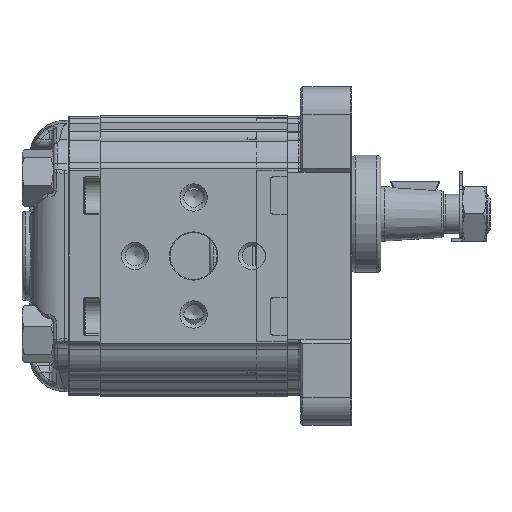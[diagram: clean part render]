
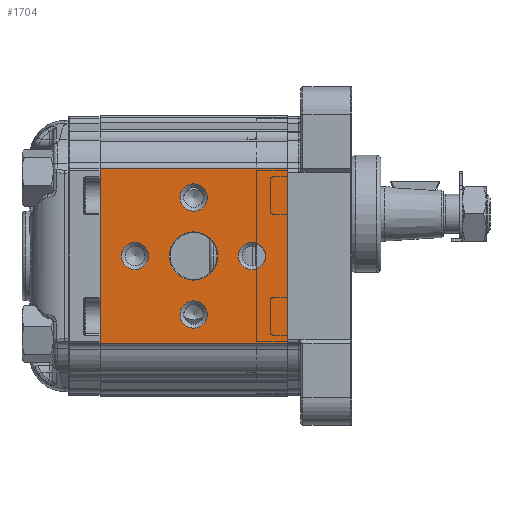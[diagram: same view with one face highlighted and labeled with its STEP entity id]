
A CAD part, left-side view. The second image highlights one B-rep face of the part: STEP entity #1704.
In plain terms, the highlighted planar face has unit normal (-1, 0, 0).
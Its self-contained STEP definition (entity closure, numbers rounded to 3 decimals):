
#1704 = ADVANCED_FACE( '', ( #4775, #4776, #4777, #4778, #4779, #4780 ), #4781, .T. );
#4775 = FACE_BOUND( '', #9670, .T. );
#4776 = FACE_BOUND( '', #9671, .T. );
#4777 = FACE_BOUND( '', #9672, .T. );
#4778 = FACE_BOUND( '', #9673, .T. );
#4779 = FACE_BOUND( '', #9674, .T. );
#4780 = FACE_OUTER_BOUND( '', #9675, .T. );
#4781 = PLANE( '', #9676 );
#9670 = EDGE_LOOP( '', ( #17760 ) );
#9671 = EDGE_LOOP( '', ( #17761 ) );
#9672 = EDGE_LOOP( '', ( #17762 ) );
#9673 = EDGE_LOOP( '', ( #17763 ) );
#9674 = EDGE_LOOP( '', ( #17764 ) );
#9675 = EDGE_LOOP( '', ( #17765, #17766, #17767, #17768 ) );
#9676 = AXIS2_PLACEMENT_3D( '', #17769, #17770, #17771 );
#17760 = ORIENTED_EDGE( '', *, *, #30064, .T. );
#17761 = ORIENTED_EDGE( '', *, *, #30065, .T. );
#17762 = ORIENTED_EDGE( '', *, *, #30066, .T. );
#17763 = ORIENTED_EDGE( '', *, *, #30067, .T. );
#17764 = ORIENTED_EDGE( '', *, *, #30068, .T. );
#17765 = ORIENTED_EDGE( '', *, *, #30069, .T. );
#17766 = ORIENTED_EDGE( '', *, *, #30070, .T. );
#17767 = ORIENTED_EDGE( '', *, *, #30071, .T. );
#17768 = ORIENTED_EDGE( '', *, *, #30072, .F. );
#17769 = CARTESIAN_POINT( '', ( -33., 127.15, 48.138 ) );
#17770 = DIRECTION( '', ( -1., 0., 0. ) );
#17771 = DIRECTION( '', ( 0., 0., 1. ) );
#30064 = EDGE_CURVE( '', #35456, #35456, #35457, .F. );
#30065 = EDGE_CURVE( '', #35458, #35458, #35459, .F. );
#30066 = EDGE_CURVE( '', #35460, #35460, #35461, .F. );
#30067 = EDGE_CURVE( '', #35462, #35462, #35463, .F. );
#30068 = EDGE_CURVE( '', #35464, #35464, #35465, .F. );
#30069 = EDGE_CURVE( '', #35466, #35467, #35468, .T. );
#30070 = EDGE_CURVE( '', #35467, #35469, #35470, .T. );
#30071 = EDGE_CURVE( '', #35469, #35471, #35472, .F. );
#30072 = EDGE_CURVE( '', #35466, #35471, #35473, .T. );
#35456 = VERTEX_POINT( '', #43696 );
#35457 = CIRCLE( '', #43697, 3.5 );
#35458 = VERTEX_POINT( '', #43698 );
#35459 = CIRCLE( '', #43699, 3.5 );
#35460 = VERTEX_POINT( '', #43700 );
#35461 = CIRCLE( '', #43701, 3.5 );
#35462 = VERTEX_POINT( '', #43702 );
#35463 = CIRCLE( '', #43703, 3.5 );
#35464 = VERTEX_POINT( '', #43704 );
#35465 = CIRCLE( '', #43705, 6.2 );
#35466 = VERTEX_POINT( '', #43706 );
#35467 = VERTEX_POINT( '', #43707 );
#35468 = LINE( '', #43708, #43709 );
#35469 = VERTEX_POINT( '', #43710 );
#35470 = LINE( '', #43711, #43712 );
#35471 = VERTEX_POINT( '', #43713 );
#35472 = LINE( '', #43714, #43715 );
#35473 = LINE( '', #43716, #43717 );
#43696 = CARTESIAN_POINT( '', ( -33., 24., -11.5 ) );
#43697 = AXIS2_PLACEMENT_3D( '', #57591, #57592, #57593 );
#43698 = CARTESIAN_POINT( '', ( -33., 9., 3.5 ) );
#43699 = AXIS2_PLACEMENT_3D( '', #57594, #57595, #57596 );
#43700 = CARTESIAN_POINT( '', ( -33., 24., 18.5 ) );
#43701 = AXIS2_PLACEMENT_3D( '', #57597, #57598, #57599 );
#43702 = CARTESIAN_POINT( '', ( -33., 39., 3.5 ) );
#43703 = AXIS2_PLACEMENT_3D( '', #57600, #57601, #57602 );
#43704 = CARTESIAN_POINT( '', ( -33., 24., 6.2 ) );
#43705 = AXIS2_PLACEMENT_3D( '', #57603, #57604, #57605 );
#43706 = CARTESIAN_POINT( '', ( -33., 48., -22.5 ) );
#43707 = CARTESIAN_POINT( '', ( -33., 0., -22.5 ) );
#43708 = CARTESIAN_POINT( '', ( -33., 48., -22.5 ) );
#43709 = VECTOR( '', #57606, 1000. );
#43710 = CARTESIAN_POINT( '', ( -33., 0., 22.5 ) );
#43711 = CARTESIAN_POINT( '', ( -33., 0., -21.711 ) );
#43712 = VECTOR( '', #57607, 1000. );
#43713 = CARTESIAN_POINT( '', ( -33., 48., 22.5 ) );
#43714 = CARTESIAN_POINT( '', ( -33., 48., 22.5 ) );
#43715 = VECTOR( '', #57608, 1000. );
#43716 = CARTESIAN_POINT( '', ( -33., 48., -21.711 ) );
#43717 = VECTOR( '', #57609, 1000. );
#57591 = CARTESIAN_POINT( '', ( -33., 24., -15. ) );
#57592 = DIRECTION( '', ( -1., 0., 0. ) );
#57593 = DIRECTION( '', ( 0., 0., 1. ) );
#57594 = CARTESIAN_POINT( '', ( -33., 9., 0. ) );
#57595 = DIRECTION( '', ( -1., 0., 0. ) );
#57596 = DIRECTION( '', ( 0., 0., 1. ) );
#57597 = CARTESIAN_POINT( '', ( -33., 24., 15. ) );
#57598 = DIRECTION( '', ( -1., 0., 0. ) );
#57599 = DIRECTION( '', ( 0., 0., 1. ) );
#57600 = CARTESIAN_POINT( '', ( -33., 39., 0. ) );
#57601 = DIRECTION( '', ( -1., 0., 0. ) );
#57602 = DIRECTION( '', ( 0., 0., 1. ) );
#57603 = CARTESIAN_POINT( '', ( -33., 24., 0. ) );
#57604 = DIRECTION( '', ( -1., 0., 0. ) );
#57605 = DIRECTION( '', ( 0., 0., 1. ) );
#57606 = DIRECTION( '', ( 0., -1., 0. ) );
#57607 = DIRECTION( '', ( 0., 0., 1. ) );
#57608 = DIRECTION( '', ( 0., -1., 0. ) );
#57609 = DIRECTION( '', ( 0., 0., 1. ) );
